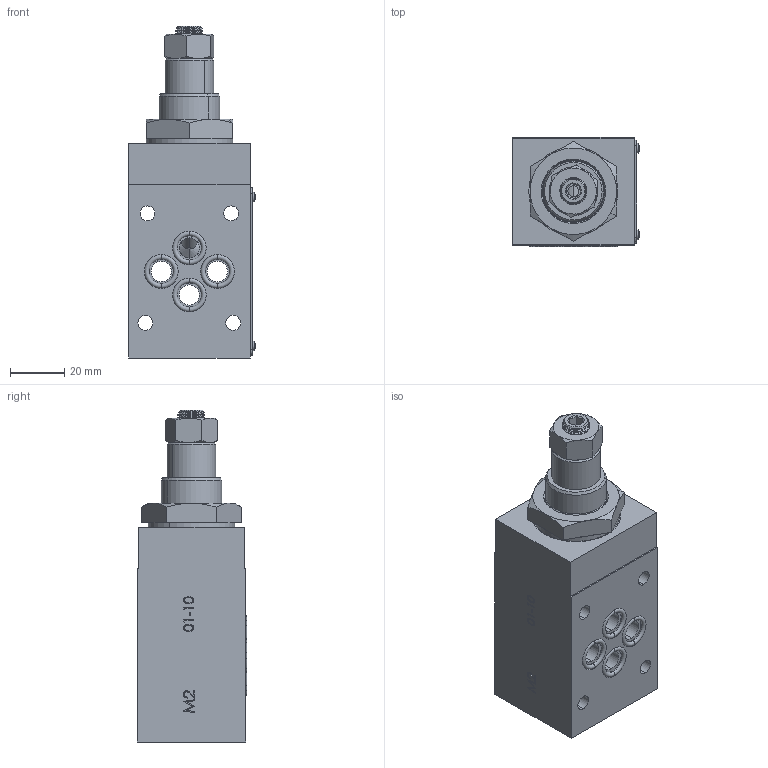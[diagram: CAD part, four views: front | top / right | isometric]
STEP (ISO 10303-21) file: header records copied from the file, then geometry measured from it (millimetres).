
FILE_DESCRIPTION (( 'STEP AP214' ), '1' );
FILE_NAME ('358-5-A-03-H.STEP', '2015-05-18T08:02:42', ( '' ), ( '' ), 'SwSTEP 2.0', 'SolidWorks 2014', '' );
FILE_SCHEMA (( 'AUTOMOTIVE_DESIGN' ));
Length unit declared in the file: millimetre
Products named in the file (1): 358-5-A-03-H
Bounding box: 46.96 x 40.38 x 122.8 mm (x, y, z)
Surface area: 29748.2 mm2 (no closed solid volume)
Topology: 0 solids, 38 shells, 700 faces, 3266 edges, 2497 vertices
Faces by surface type: plane 413, bspline 124, cylinder 90, cone 49, torus 24
Entity records: 54310 total; most frequent: CARTESIAN_POINT 22840, ORIENTED_EDGE 4505, DIRECTION 3943, EDGE_CURVE 3264, VERTEX_POINT 2497, VECTOR 2171, LINE 2171, EDGE_LOOP 889
